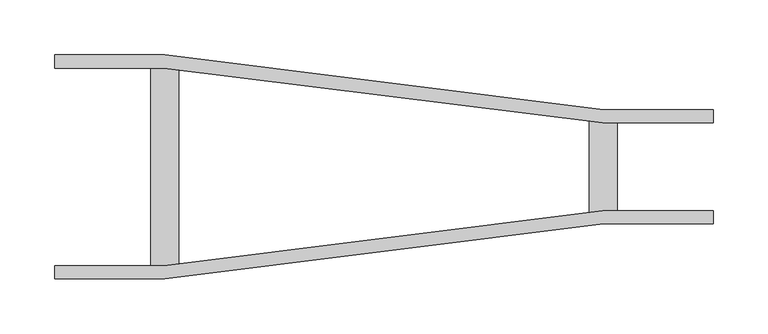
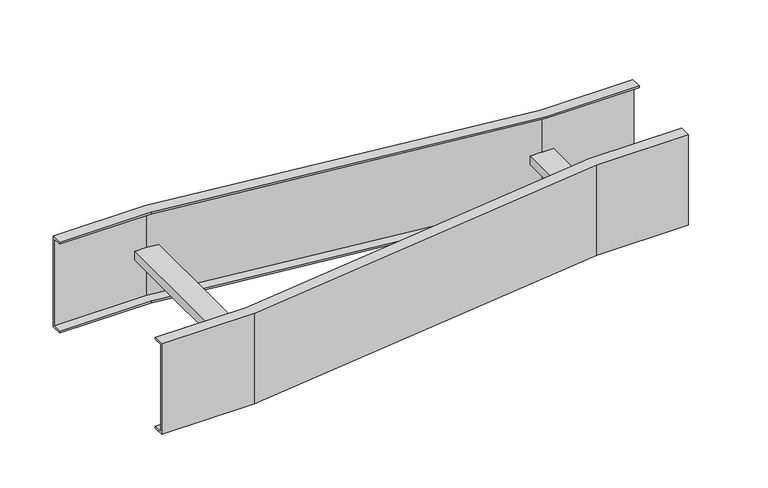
"""IFC4 building model written with IfcOpenShell, lengths in millimetres: cable carrier fitting geometry, BAKS_LDLS_CONN_Univarsal connector reduction_LUS : LUS_H100."""

from ifc_helpers import new_model, si_unit, frame, origin, place, context, project, spatial, polyline, outline, extrude, faceted_brep, source, transform, mapped, element, save


def cable_carrier_fitting_8b2eacbc(model_context):
    return source(origin(), model_context, "Body", "SolidModel", [
        faceted_brep([(0.0, 90.0, -52.0), (0.0, 90.0, -50.0), (0.0, 100.0, -50.0), (0.0, 100.0, 50.0), (0.0, 90.0, 50.0), (0.0, 90.0, 52.0), (0.0, 102.0, 52.0), (0.0, 102.0, -52.0), (600.0, 40.0, -52.0), (600.0, 52.0, -52.0), (600.0, 52.0, 52.0), (600.0, 40.0, 52.0), (600.0, 40.0, 50.0), (600.0, 50.0, 50.0), (600.0, 50.0, -50.0), (600.0, 40.0, -50.0), (112.7, 98.4125, -5.0), (112.7, 98.4125, 5.0), (112.7, -98.4125, 5.0), (112.7, -98.4125, -5.0), (87.3, -100.0, -5.0), (87.3, 100.0, -5.0), (100.0, 100.0, -5.0), (100.0, -100.0, -5.0), (87.3, -100.0, 5.0), (87.3, 100.0, 5.0), (100.0, -100.0, 5.0), (100.0, 100.0, 5.0), (0.0, -90.0, 52.0), (0.0, -90.0, 50.0), (0.0, -100.0, 50.0), (0.0, -100.0, -50.0), (0.0, -90.0, -50.0), (0.0, -90.0, -52.0), (0.0, -102.0, -52.0), (0.0, -102.0, 52.0), (600.0, -40.0, 52.0), (600.0, -52.0, 52.0), (600.0, -52.0, -52.0), (600.0, -40.0, -52.0), (600.0, -40.0, -50.0), (600.0, -50.0, -50.0), (600.0, -50.0, 50.0), (600.0, -40.0, 50.0), (99.3774225, 90.0, -52.0), (99.3774225, 90.0, -50.0), (499.3774225, 40.0, -50.0), (500.0, 50.0, -50.0), (100.0, 100.0, -50.0), (100.0, 100.0, 50.0), (500.0, 50.0, 50.0), (499.3774225, 40.0, 50.0), (99.3774225, 90.0, 50.0), (99.3774225, 90.0, 52.0), (499.3774225, 40.0, 52.0), (500.1245155, 52.0, 52.0), (100.1245155, 102.0, 52.0), (100.1245155, 102.0, -52.0), (500.1245155, 52.0, -52.0), (499.3774225, 40.0, -52.0), (99.3774225, -90.0, 52.0), (99.3774225, -90.0, 50.0), (499.3774225, -40.0, 50.0), (500.0, -50.0, 50.0), (100.0, -100.0, 50.0), (100.0, -100.0, -50.0), (500.0, -50.0, -50.0), (499.3774225, -40.0, -50.0), (99.3774225, -90.0, -50.0), (99.3774225, -90.0, -52.0), (499.3774225, -40.0, -52.0), (500.1245155, -52.0, -52.0), (100.1245155, -102.0, -52.0), (100.1245155, -102.0, 52.0), (500.1245155, -52.0, 52.0), (499.3774225, -40.0, 52.0)], [[[0, 1, 2, 3, 4, 5, 6, 7]], [[8, 9, 10, 11, 12, 13, 14, 15]], [[16, 17, 18, 19]], [[20, 21, 22, 16, 19, 23]], [[21, 20, 24, 25]], [[25, 24, 26, 18, 17, 27]], [[28, 29, 30, 31, 32, 33, 34, 35]], [[36, 37, 38, 39, 40, 41, 42, 43]], [[1, 0, 44, 45]], [[2, 1, 45, 46, 15, 14, 47, 48]], [[3, 2, 48, 22, 21, 25, 27, 49]], [[4, 3, 49, 50, 13, 12, 51, 52]], [[5, 4, 52, 53]], [[6, 5, 53, 54, 11, 10, 55, 56]], [[7, 6, 56, 57]], [[0, 7, 57, 58, 9, 8, 59, 44]], [[45, 44, 59, 46]], [[48, 47, 50, 49, 27, 17, 16, 22]], [[52, 51, 54, 53]], [[56, 55, 58, 57]], [[8, 15, 46, 59]], [[14, 13, 50, 47]], [[12, 11, 54, 51]], [[10, 9, 58, 55]], [[29, 28, 60, 61]], [[30, 29, 61, 62, 43, 42, 63, 64]], [[31, 30, 64, 26, 24, 20, 23, 65]], [[32, 31, 65, 66, 41, 40, 67, 68]], [[33, 32, 68, 69]], [[34, 33, 69, 70, 39, 38, 71, 72]], [[35, 34, 72, 73]], [[28, 35, 73, 74, 37, 36, 75, 60]], [[61, 60, 75, 62]], [[64, 63, 66, 65, 23, 19, 18, 26]], [[68, 67, 70, 69]], [[72, 71, 74, 73]], [[36, 43, 62, 75]], [[42, 41, 66, 63]], [[40, 39, 70, 67]], [[38, 37, 74, 71]]]),
        extrude(outline(polyline([(487.3, 50.0), (512.7, 50.0), (512.7, -50.0), (487.3, -50.0), (487.3, 50.0)])), frame((0.0, 0.0, -5.0), z_axis=(0.0, 0.0, 1.0), x_axis=(1.0, 0.0, 0.0)), (0.0, 0.0, 1.0), 10.0),
    ])


if __name__ == "__main__":
    model = new_model("IFC4")
    model_context = context("Model", 3, world=origin())
    ifc_project = project(units=[si_unit("LENGTHUNIT", "METRE", prefix="MILLI")], contexts=[model_context])
    site = spatial("IfcSite", under=ifc_project)
    building = spatial("IfcBuilding", under=site)
    placement = place(None, origin())
    cable_carrier_fitting_shape = cable_carrier_fitting_8b2eacbc(model_context)
    element("IfcCableCarrierFitting", 1, ObjectType="BAKS_LDLS_CONN_Univarsal connector reduction_LUS : LUS_H100", at=placement, inside=building, context=model_context, shape_type="MappedRepresentation", body=[
        mapped(cable_carrier_fitting_shape, transform((0.0, 0.0, 0.0), x_axis=(1.0, 0.0, 0.0), y_axis=(0.0, 1.0, 0.0), z_axis=(0.0, 0.0, 1.0))),
    ])
    save(model, "model.ifc")
